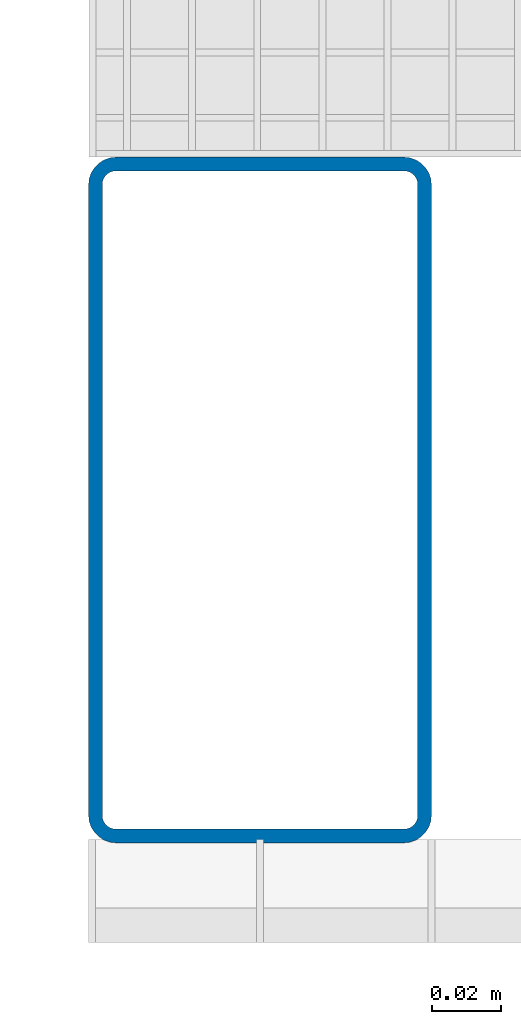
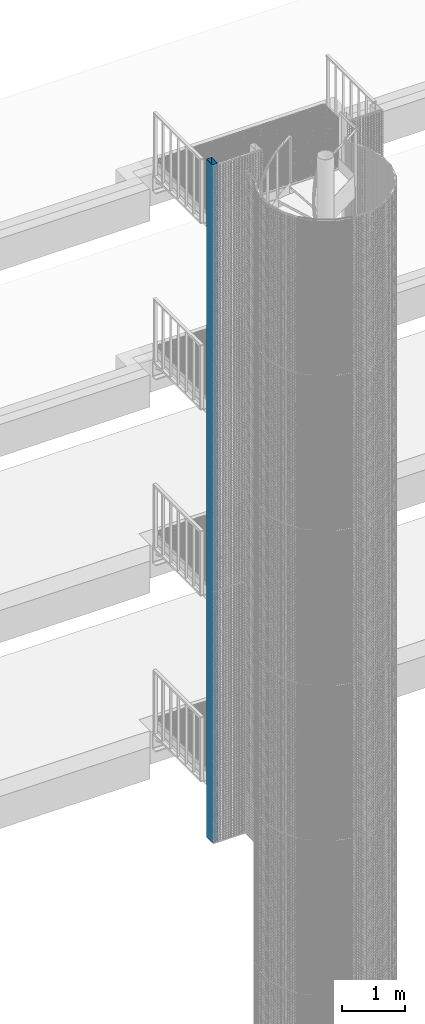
# One storey, part 55 of 1183: 1 column, 1 element without a shape of its own.
"""IFC2X3 building model written with IfcOpenShell, lengths in millimetres."""

from ifc_helpers import new_model, si_unit, frame, origin_with_axes, origin_2d_with_axis, place, context, subcontext, project, spatial, hollow_rectangle, extrude, material, type_object, element, aggregate, save


model = new_model("IFC2X3")

# Units and contexts
model_context = context("Model", 3, precision=1e-05, world=origin_with_axes())
body_context = subcontext(model_context, "Body", "Model", "MODEL_VIEW")
ifc_project = project(units=[si_unit("LENGTHUNIT", "METRE", prefix="MILLI"), si_unit("AREAUNIT", "SQUARE_METRE"), si_unit("VOLUMEUNIT", "CUBIC_METRE"), si_unit("MASSUNIT", "GRAM", prefix="KILO"), si_unit("TIMEUNIT", "SECOND"), si_unit("PLANEANGLEUNIT", "RADIAN"), si_unit("SOLIDANGLEUNIT", "STERADIAN"), si_unit("THERMODYNAMICTEMPERATUREUNIT", "DEGREE_CELSIUS"), si_unit("LUMINOUSINTENSITYUNIT", "LUMEN")], contexts=[model_context])

# Site, building, storey
site_placement = place(None, origin_with_axes())
site = spatial("IfcSite", under=ifc_project, at=site_placement, Name="Undefined", CompositionType="ELEMENT")
building_placement = place(site_placement, origin_with_axes())
building = spatial("IfcBuilding", under=site, at=building_placement, Name="Undefined", CompositionType="ELEMENT")
storey_placement = place(building_placement, origin_with_axes())
storey = spatial("IfcBuildingStorey", under=building, at=storey_placement, Name="Undefined", CompositionType="ELEMENT", Elevation=0.0)

# Assembly, column
assembly_placement = place(storey_placement, origin_with_axes())
assembly = element("IfcElementAssembly", 1, at=assembly_placement, inside=storey, AssemblyPlace="NOTDEFINED", PredefinedType="NOTDEFINED")
ifc_material = material(Name="STEEL/S235JR")
column_type = type_object("IfcColumnType", Name="TUBE-R-200*100*4", PredefinedType="NOTDEFINED")
column_placement = place(assembly_placement, frame((20099.930410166, 1000.0146899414, 5170.0), z_axis=(0.0, 0.0, 1.0), x_axis=(0.0, 1.0, 0.0)))
column = element("IfcColumn", 2, at=column_placement, type_object=column_type, material=ifc_material, Name="EXISTANTS", context=body_context, shape_type="SweptSolid", body=[
    extrude(hollow_rectangle(XDim=100.0, YDim=200.0, WallThickness=4.0, InnerFilletRadius=4.0, OuterFilletRadius=8.0, at=origin_2d_with_axis()), frame((0.0, 0.0, 13120.0), z_axis=(0.0, 0.0, -1.0), x_axis=(0.0, 1.0, 0.0)), (0.0, 0.0, 1.0), 13120.0),
])
aggregate(assembly, [column])

save(model, "model.ifc")
